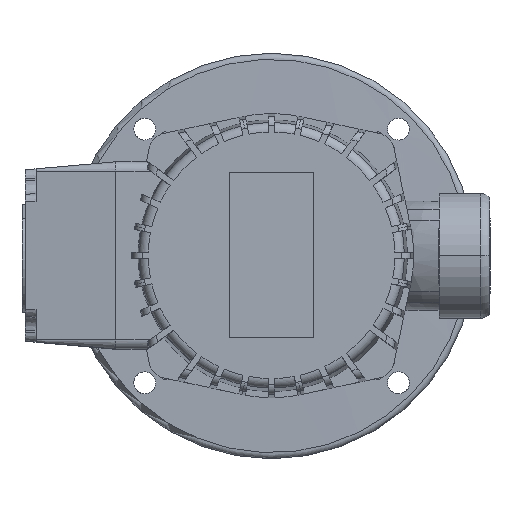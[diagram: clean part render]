
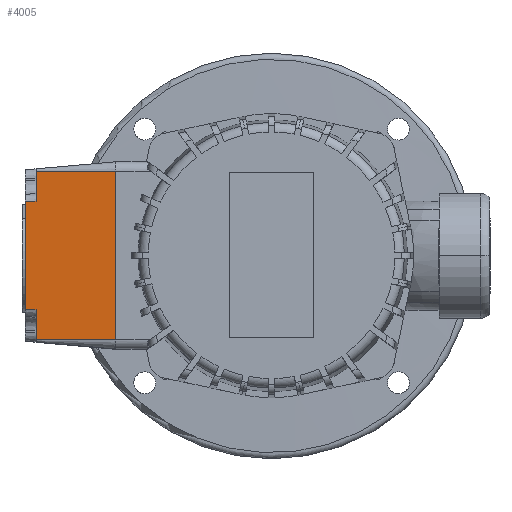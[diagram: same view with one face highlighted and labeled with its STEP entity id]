
A CAD part, top view. The second image highlights one B-rep face of the part: STEP entity #4005.
In plain terms, the highlighted planar face has unit normal (-0.087, 0, 0.996).
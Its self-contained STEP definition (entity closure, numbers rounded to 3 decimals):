
#3355=VERTEX_POINT('',#9861);
#3859=EDGE_CURVE('',#3355,#6533,#10416,.T.);
#3987=VERTEX_POINT('',#10559);
#4005=ADVANCED_FACE('',(#10577),#10578,.T.);
#4775=EDGE_CURVE('',#7843,#5849,#11437,.T.);
#5849=VERTEX_POINT('',#12600);
#5931=EDGE_CURVE('',#6533,#9091,#12690,.T.);
#6327=VERTEX_POINT('',#13117);
#6533=VERTEX_POINT('',#13340);
#6651=EDGE_CURVE('',#6327,#3355,#13470,.T.);
#7011=EDGE_CURVE('',#9091,#7701,#13872,.T.);
#7123=EDGE_CURVE('',#7701,#3987,#13995,.T.);
#7491=EDGE_CURVE('',#5849,#6327,#14397,.T.);
#7701=VERTEX_POINT('',#14629);
#7843=VERTEX_POINT('',#14788);
#8303=EDGE_CURVE('',#7843,#3987,#15284,.T.);
#9091=VERTEX_POINT('',#16153);
#9861=CARTESIAN_POINT('',(-75.5,17.353,60.269));
#10416=B_SPLINE_CURVE_WITH_KNOTS('',2,(#18269,#18270,#18271),.UNSPECIFIED.,.F.,.F.,(3,3),(0.0,3.513),.UNSPECIFIED.);
#10559=CARTESIAN_POINT('',(-75.5,-27.0,60.269));
#10577=FACE_OUTER_BOUND('',#18556,.T.);
#10578=PLANE('',#18557);
#11437=LINE('',#20401,#20402);
#12600=CARTESIAN_POINT('',(-50.0,27.0,62.5));
#12690=LINE('',#22880,#22881);
#13117=CARTESIAN_POINT('',(-75.5,27.0,60.269));
#13340=CARTESIAN_POINT('',(-79.0,17.326,59.963));
#13470=LINE('',#24466,#24467);
#13872=B_SPLINE_CURVE_WITH_KNOTS('',2,(#25206,#25207,#25208),.UNSPECIFIED.,.F.,.F.,(3,3),(0.0,3.513),.UNSPECIFIED.);
#13995=LINE('',#25584,#25585);
#14397=LINE('',#26493,#26494);
#14629=CARTESIAN_POINT('',(-75.5,-17.353,60.269));
#14788=CARTESIAN_POINT('',(-50.0,-27.0,62.5));
#15284=LINE('',#28393,#28394);
#16153=CARTESIAN_POINT('',(-79.0,-17.326,59.963));
#18269=CARTESIAN_POINT('',(-75.5,17.353,60.269));
#18270=CARTESIAN_POINT('',(-77.297,17.339,60.112));
#18271=CARTESIAN_POINT('',(-79.0,17.326,59.963));
#18556=EDGE_LOOP('',(#33053,#33054,#33055,#33056,#33057,#33058,#33059,#33060));
#18557=AXIS2_PLACEMENT_3D('',#33061,#33062,#33063);
#20401=CARTESIAN_POINT('',(-50.0,-27.0,62.5));
#20402=VECTOR('',#34083,1.0);
#22880=CARTESIAN_POINT('',(-79.0,-27.0,59.963));
#22881=VECTOR('',#35491,1.0);
#24466=CARTESIAN_POINT('',(-75.5,25.811,60.269));
#24467=VECTOR('',#36252,1.0);
#25206=CARTESIAN_POINT('',(-79.0,-17.326,59.963));
#25207=CARTESIAN_POINT('',(-77.297,-17.339,60.112));
#25208=CARTESIAN_POINT('',(-75.5,-17.353,60.269));
#25584=CARTESIAN_POINT('',(-75.5,1.189,60.269));
#25585=VECTOR('',#36928,1.0);
#26493=CARTESIAN_POINT('',(-50.0,27.0,62.5));
#26494=VECTOR('',#37321,1.0);
#28393=CARTESIAN_POINT('',(-50.0,-27.0,62.5));
#28394=VECTOR('',#38303,1.0);
#33053=ORIENTED_EDGE('',*,*,#7123,.T.);
#33054=ORIENTED_EDGE('',*,*,#8303,.F.);
#33055=ORIENTED_EDGE('',*,*,#4775,.T.);
#33056=ORIENTED_EDGE('',*,*,#7491,.T.);
#33057=ORIENTED_EDGE('',*,*,#6651,.T.);
#33058=ORIENTED_EDGE('',*,*,#3859,.T.);
#33059=ORIENTED_EDGE('',*,*,#5931,.T.);
#33060=ORIENTED_EDGE('',*,*,#7011,.T.);
#33061=CARTESIAN_POINT('',(-50.0,27.0,62.5));
#33062=DIRECTION('',(-0.087,0.0,0.996));
#33063=DIRECTION('',(0.0,1.0,0.0));
#34083=DIRECTION('',(0.0,1.0,0.0));
#35491=DIRECTION('',(0.0,-1.0,0.0));
#36252=DIRECTION('',(0.0,-1.0,0.0));
#36928=DIRECTION('',(0.0,-1.0,0.0));
#37321=DIRECTION('',(-0.996,0.0,-0.087));
#38303=DIRECTION('',(-0.996,0.,-0.087));
